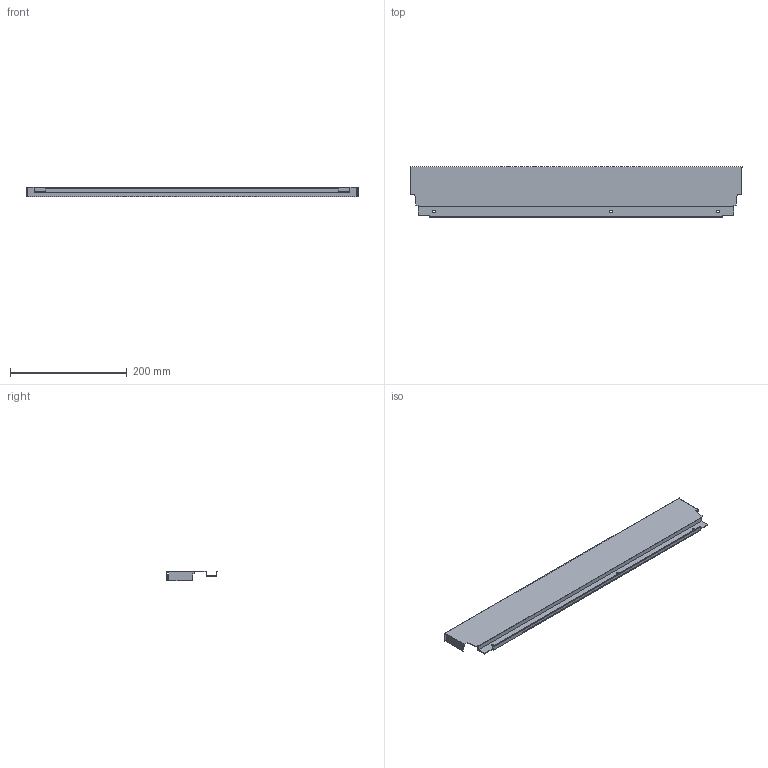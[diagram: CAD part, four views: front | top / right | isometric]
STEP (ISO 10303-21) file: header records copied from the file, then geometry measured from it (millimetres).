
FILE_DESCRIPTION (( 'STEP AP214' ), '1' );
FILE_NAME ('_DWD_XP Stahlrückwand_H86_KAB650_S16.step', '2010-07-08T12:09:57', ( 'grass' ), ( '' ), 'SwSTEP 2.0', 'SolidWorks 2010', '' );
FILE_SCHEMA (( 'AUTOMOTIVE_DESIGN' ));
Length unit declared in the file: millimetre
Products named in the file (1): _DWD_XP Stahlrückwand_H86_KAB650_S16
Bounding box: 569 x 85.79 x 16 mm (x, y, z)
Volume: 60663.1 mm3; surface area: 132120.2 mm2
Topology: 1 solids, 1 shells, 50 faces, 144 edges, 96 vertices
Faces by surface type: plane 44, cylinder 6
Entity records: 1666 total; most frequent: CARTESIAN_POINT 291, ORIENTED_EDGE 288, DIRECTION 258, EDGE_CURVE 144, VECTOR 132, LINE 132, VERTEX_POINT 96, AXIS2_PLACEMENT_3D 63
